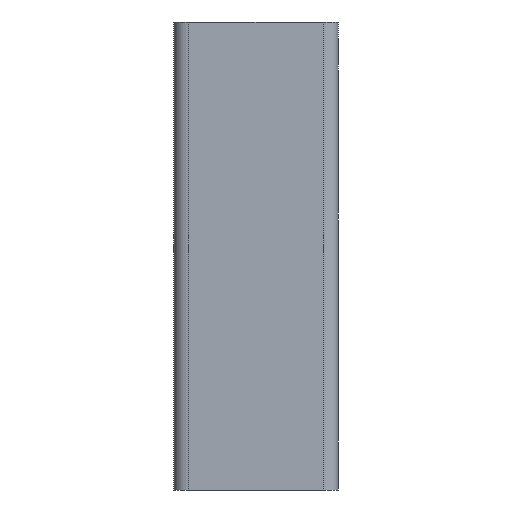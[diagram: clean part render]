
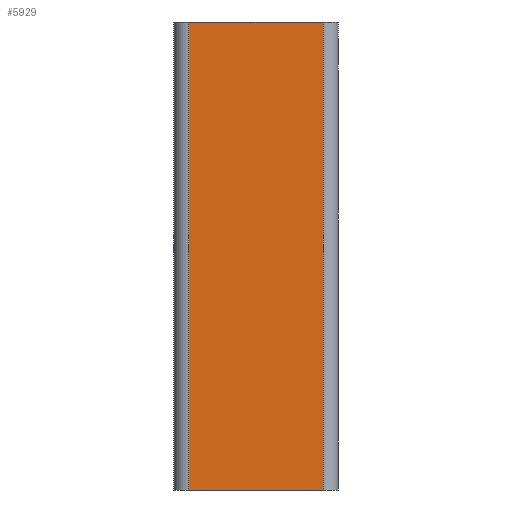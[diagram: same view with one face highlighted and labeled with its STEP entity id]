
A CAD part, left-side view. The second image highlights one B-rep face of the part: STEP entity #5929.
In plain terms, the highlighted planar face has unit normal (-1, 0, 0).
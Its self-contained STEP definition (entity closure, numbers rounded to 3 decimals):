
#712=PLANE('',#6145);
#1023=FACE_OUTER_BOUND('',#1368,.T.);
#1368=EDGE_LOOP('',(#5485,#5486,#5487,#5488));
#1831=LINE('',#10803,#2308);
#1832=LINE('',#10806,#2309);
#1847=LINE('',#10841,#2324);
#1848=LINE('',#10842,#2325);
#2308=VECTOR('',#6978,10.);
#2309=VECTOR('',#6981,10.);
#2324=VECTOR('',#7004,10.);
#2325=VECTOR('',#7005,10.);
#2940=VERTEX_POINT('',#10796);
#2943=VERTEX_POINT('',#10801);
#2944=VERTEX_POINT('',#10805);
#2960=VERTEX_POINT('',#10840);
#3800=EDGE_CURVE('',#2943,#2940,#1831,.T.);
#3801=EDGE_CURVE('',#2940,#2944,#1832,.T.);
#3819=EDGE_CURVE('',#2943,#2960,#1847,.T.);
#3820=EDGE_CURVE('',#2944,#2960,#1848,.T.);
#5485=ORIENTED_EDGE('',*,*,#3800,.F.);
#5486=ORIENTED_EDGE('',*,*,#3819,.T.);
#5487=ORIENTED_EDGE('',*,*,#3820,.F.);
#5488=ORIENTED_EDGE('',*,*,#3801,.F.);
#5929=ADVANCED_FACE('',(#1023),#712,.T.);
#6145=AXIS2_PLACEMENT_3D('',#10839,#7002,#7003);
#6978=DIRECTION('',(0.,0.,1.));
#6981=DIRECTION('',(0.,-1.,0.));
#7002=DIRECTION('center_axis',(-1.,0.,0.));
#7003=DIRECTION('ref_axis',(0.,-1.,0.));
#7004=DIRECTION('',(0.,-1.,0.));
#7005=DIRECTION('',(0.,0.,-1.));
#10796=CARTESIAN_POINT('',(0.,20.,62.5));
#10801=CARTESIAN_POINT('',(0.,20.,0.));
#10803=CARTESIAN_POINT('',(0.,20.,0.));
#10805=CARTESIAN_POINT('',(0.,2.,62.5));
#10806=CARTESIAN_POINT('',(0.,22.,62.5));
#10839=CARTESIAN_POINT('Origin',(0.,22.,0.));
#10840=CARTESIAN_POINT('',(0.,2.,0.));
#10841=CARTESIAN_POINT('',(0.,22.,0.));
#10842=CARTESIAN_POINT('',(0.,2.,0.));
